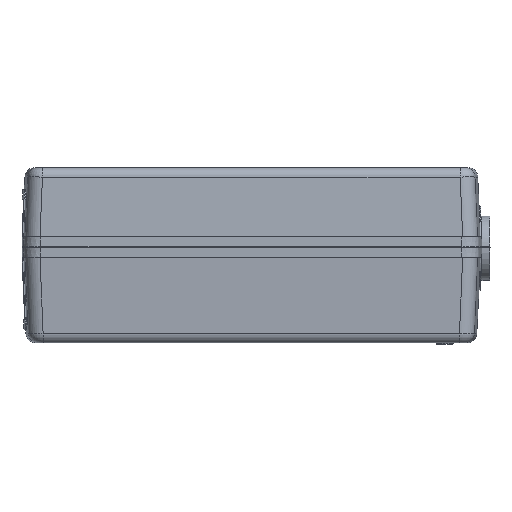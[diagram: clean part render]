
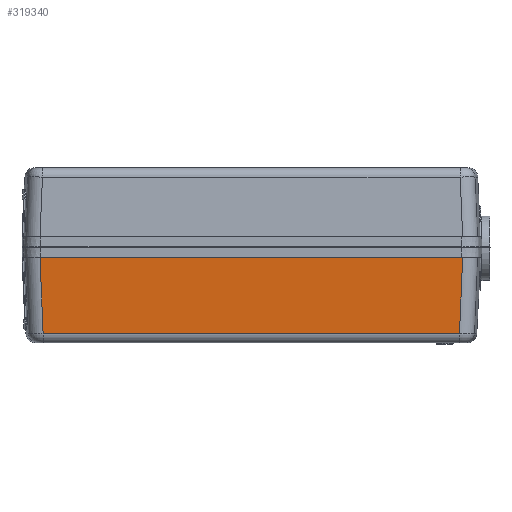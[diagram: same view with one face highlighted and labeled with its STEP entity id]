
A CAD part, front view. The second image highlights one B-rep face of the part: STEP entity #319340.
In plain terms, the highlighted planar face has unit normal (0, -0.999, -0.044).
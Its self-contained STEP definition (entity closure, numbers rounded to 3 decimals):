
#298300=CARTESIAN_POINT('',(42.809,-68.989,-2.2));
#298310=VERTEX_POINT('',#298300);
#298340=CARTESIAN_POINT('',(-42.808,-68.989,-2.2));
#298350=DIRECTION('',(1.,0.,0.));
#298360=VECTOR('',#298350,1.);
#298370=LINE('',#298340,#298360);
#298380=CARTESIAN_POINT('',(-42.808,-68.989,-2.2));
#298390=VERTEX_POINT('',#298380);
#298400=EDGE_CURVE('',#298390,#298310,#298370,.T.);
#302900=CARTESIAN_POINT('',(-42.169,-68.317,
-17.587));
#302910=VERTEX_POINT('',#302900);
#303250=CARTESIAN_POINT('',(42.169,-68.317,
-17.587));
#303260=DIRECTION('',(-1.,0.,0.));
#303270=VECTOR('',#303260,1.);
#303280=LINE('',#303250,#303270);
#303290=CARTESIAN_POINT('',(42.169,-68.317,
-17.587));
#303300=VERTEX_POINT('',#303290);
#303310=EDGE_CURVE('',#303300,#302910,#303280,.T.);
#318990=CARTESIAN_POINT('',(42.169,-68.317,
-17.587));
#319000=DIRECTION('',(0.041,-0.044,
0.998));
#319010=VECTOR('',#319000,1.);
#319020=LINE('',#318990,#319010);
#319030=EDGE_CURVE('',#303300,#298310,#319020,.T.);
#319180=CARTESIAN_POINT('',(-48.858,-68.989,-2.2));
#319190=DIRECTION('',(0.,-0.999,-0.044));
#319200=DIRECTION('',(0.,0.044,-0.999));
#319210=AXIS2_PLACEMENT_3D('',#319180,#319190,#319200);
#319220=PLANE('',#319210);
#319230=ORIENTED_EDGE('',*,*,#303310,.F.);
#319240=CARTESIAN_POINT('',(-42.808,-68.989,
-2.2));
#319250=DIRECTION('',(0.041,0.044,
-0.998));
#319260=VECTOR('',#319250,1.);
#319270=LINE('',#319240,#319260);
#319280=EDGE_CURVE('',#298390,#302910,#319270,.T.);
#319290=ORIENTED_EDGE('',*,*,#319280,.T.);
#319300=ORIENTED_EDGE('',*,*,#298400,.F.);
#319310=ORIENTED_EDGE('',*,*,#319030,.T.);
#319320=EDGE_LOOP('',(#319310,#319300,#319290,#319230));
#319330=FACE_OUTER_BOUND('',#319320,.T.);
#319340=ADVANCED_FACE('',(#319330),#319220,.T.);
